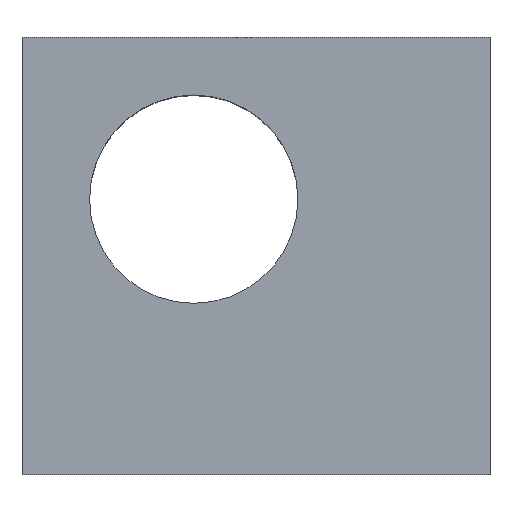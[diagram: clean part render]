
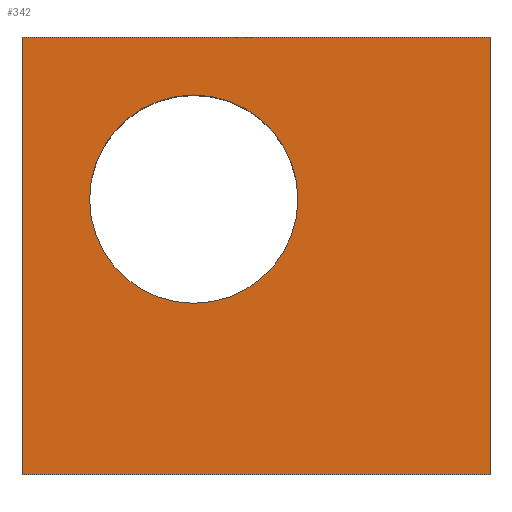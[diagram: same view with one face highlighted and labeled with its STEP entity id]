
A CAD part, top view. The second image highlights one B-rep face of the part: STEP entity #342.
In plain terms, the highlighted planar face has unit normal (0, 0, 1).
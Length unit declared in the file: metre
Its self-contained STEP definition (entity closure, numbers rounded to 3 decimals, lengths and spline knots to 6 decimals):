
#24 = VERTEX_POINT('',#25);
#25 = CARTESIAN_POINT('',(-75.584354,0.,50.));
#32 = PLANE('',#33);
#33 = AXIS2_PLACEMENT_3D('',#34,#35,#36);
#34 = CARTESIAN_POINT('',(-75.584354,0.,0.));
#35 = DIRECTION('',(0.,1.,0.));
#36 = DIRECTION('',(1.,0.,0.));
#44 = PLANE('',#45);
#45 = AXIS2_PLACEMENT_3D('',#46,#47,#48);
#46 = CARTESIAN_POINT('',(-75.584354,70.586521,0.));
#47 = DIRECTION('',(1.,0.,-0.));
#48 = DIRECTION('',(0.,-1.,0.));
#56 = EDGE_CURVE('',#24,#57,#59,.T.);
#57 = VERTEX_POINT('',#58);
#58 = CARTESIAN_POINT('',(0.,0.,50.));
#59 = SURFACE_CURVE('',#60,(#64,#71),.PCURVE_S1.);
#60 = LINE('',#61,#62);
#61 = CARTESIAN_POINT('',(-75.584354,0.,50.));
#62 = VECTOR('',#63,1.);
#63 = DIRECTION('',(1.,0.,0.));
#64 = PCURVE('',#32,#65);
#65 = DEFINITIONAL_REPRESENTATION('',(#66),#70);
#66 = LINE('',#67,#68);
#67 = CARTESIAN_POINT('',(0.,-50.));
#68 = VECTOR('',#69,1.);
#69 = DIRECTION('',(1.,0.));
#70 = ( GEOMETRIC_REPRESENTATION_CONTEXT(2) 
PARAMETRIC_REPRESENTATION_CONTEXT() REPRESENTATION_CONTEXT('2D SPACE',''
  ) );
#71 = PCURVE('',#72,#77);
#72 = PLANE('',#73);
#73 = AXIS2_PLACEMENT_3D('',#74,#75,#76);
#74 = CARTESIAN_POINT('',(0.,0.,50.));
#75 = DIRECTION('',(0.,0.,1.));
#76 = DIRECTION('',(1.,0.,-0.));
#77 = DEFINITIONAL_REPRESENTATION('',(#78),#82);
#78 = LINE('',#79,#80);
#79 = CARTESIAN_POINT('',(-75.584,0.));
#80 = VECTOR('',#81,1.);
#81 = DIRECTION('',(1.,0.));
#82 = ( GEOMETRIC_REPRESENTATION_CONTEXT(2) 
PARAMETRIC_REPRESENTATION_CONTEXT() REPRESENTATION_CONTEXT('2D SPACE',''
  ) );
#100 = PLANE('',#101);
#101 = AXIS2_PLACEMENT_3D('',#102,#103,#104);
#102 = CARTESIAN_POINT('',(0.,0.,0.));
#103 = DIRECTION('',(-1.,0.,0.));
#104 = DIRECTION('',(0.,1.,0.));
#144 = VERTEX_POINT('',#145);
#145 = CARTESIAN_POINT('',(-75.584354,70.586521,50.));
#159 = PLANE('',#160);
#160 = AXIS2_PLACEMENT_3D('',#161,#162,#163);
#161 = CARTESIAN_POINT('',(0.,70.586521,0.));
#162 = DIRECTION('',(0.,-1.,0.));
#163 = DIRECTION('',(-1.,0.,0.));
#171 = EDGE_CURVE('',#144,#24,#172,.T.);
#172 = SURFACE_CURVE('',#173,(#177,#184),.PCURVE_S1.);
#173 = LINE('',#174,#175);
#174 = CARTESIAN_POINT('',(-75.584354,70.586521,50.));
#175 = VECTOR('',#176,1.);
#176 = DIRECTION('',(0.,-1.,0.));
#177 = PCURVE('',#44,#178);
#178 = DEFINITIONAL_REPRESENTATION('',(#179),#183);
#179 = LINE('',#180,#181);
#180 = CARTESIAN_POINT('',(0.,-50.));
#181 = VECTOR('',#182,1.);
#182 = DIRECTION('',(1.,0.));
#183 = ( GEOMETRIC_REPRESENTATION_CONTEXT(2) 
PARAMETRIC_REPRESENTATION_CONTEXT() REPRESENTATION_CONTEXT('2D SPACE',''
  ) );
#184 = PCURVE('',#72,#185);
#185 = DEFINITIONAL_REPRESENTATION('',(#186),#190);
#186 = LINE('',#187,#188);
#187 = CARTESIAN_POINT('',(-75.584,70.587));
#188 = VECTOR('',#189,1.);
#189 = DIRECTION('',(0.,-1.));
#190 = ( GEOMETRIC_REPRESENTATION_CONTEXT(2) 
PARAMETRIC_REPRESENTATION_CONTEXT() REPRESENTATION_CONTEXT('2D SPACE',''
  ) );
#218 = EDGE_CURVE('',#57,#219,#221,.T.);
#219 = VERTEX_POINT('',#220);
#220 = CARTESIAN_POINT('',(0.,70.586521,50.));
#221 = SURFACE_CURVE('',#222,(#226,#233),.PCURVE_S1.);
#222 = LINE('',#223,#224);
#223 = CARTESIAN_POINT('',(0.,0.,50.));
#224 = VECTOR('',#225,1.);
#225 = DIRECTION('',(0.,1.,0.));
#226 = PCURVE('',#100,#227);
#227 = DEFINITIONAL_REPRESENTATION('',(#228),#232);
#228 = LINE('',#229,#230);
#229 = CARTESIAN_POINT('',(0.,-50.));
#230 = VECTOR('',#231,1.);
#231 = DIRECTION('',(1.,0.));
#232 = ( GEOMETRIC_REPRESENTATION_CONTEXT(2) 
PARAMETRIC_REPRESENTATION_CONTEXT() REPRESENTATION_CONTEXT('2D SPACE',''
  ) );
#233 = PCURVE('',#72,#234);
#234 = DEFINITIONAL_REPRESENTATION('',(#235),#239);
#235 = LINE('',#236,#237);
#236 = CARTESIAN_POINT('',(0.,0.));
#237 = VECTOR('',#238,1.);
#238 = DIRECTION('',(0.,1.));
#239 = ( GEOMETRIC_REPRESENTATION_CONTEXT(2) 
PARAMETRIC_REPRESENTATION_CONTEXT() REPRESENTATION_CONTEXT('2D SPACE',''
  ) );
#331 = CYLINDRICAL_SURFACE('',#332,16.822425);
#332 = AXIS2_PLACEMENT_3D('',#333,#334,#335);
#333 = CARTESIAN_POINT('',(-47.850553,44.430312,0.));
#334 = DIRECTION('',(-0.,-0.,-1.));
#335 = DIRECTION('',(1.,0.,-0.));
#342 = ADVANCED_FACE('',(#343,#369),#72,.T.);
#343 = FACE_BOUND('',#344,.T.);
#344 = EDGE_LOOP('',(#345,#346,#347,#368));
#345 = ORIENTED_EDGE('',*,*,#56,.T.);
#346 = ORIENTED_EDGE('',*,*,#218,.T.);
#347 = ORIENTED_EDGE('',*,*,#348,.T.);
#348 = EDGE_CURVE('',#219,#144,#349,.T.);
#349 = SURFACE_CURVE('',#350,(#354,#361),.PCURVE_S1.);
#350 = LINE('',#351,#352);
#351 = CARTESIAN_POINT('',(0.,70.586521,50.));
#352 = VECTOR('',#353,1.);
#353 = DIRECTION('',(-1.,0.,0.));
#354 = PCURVE('',#72,#355);
#355 = DEFINITIONAL_REPRESENTATION('',(#356),#360);
#356 = LINE('',#357,#358);
#357 = CARTESIAN_POINT('',(0.,70.587));
#358 = VECTOR('',#359,1.);
#359 = DIRECTION('',(-1.,0.));
#360 = ( GEOMETRIC_REPRESENTATION_CONTEXT(2) 
PARAMETRIC_REPRESENTATION_CONTEXT() REPRESENTATION_CONTEXT('2D SPACE',''
  ) );
#361 = PCURVE('',#159,#362);
#362 = DEFINITIONAL_REPRESENTATION('',(#363),#367);
#363 = LINE('',#364,#365);
#364 = CARTESIAN_POINT('',(0.,-50.));
#365 = VECTOR('',#366,1.);
#366 = DIRECTION('',(1.,0.));
#367 = ( GEOMETRIC_REPRESENTATION_CONTEXT(2) 
PARAMETRIC_REPRESENTATION_CONTEXT() REPRESENTATION_CONTEXT('2D SPACE',''
  ) );
#368 = ORIENTED_EDGE('',*,*,#171,.T.);
#369 = FACE_BOUND('',#370,.T.);
#370 = EDGE_LOOP('',(#371));
#371 = ORIENTED_EDGE('',*,*,#372,.F.);
#372 = EDGE_CURVE('',#373,#373,#375,.T.);
#373 = VERTEX_POINT('',#374);
#374 = CARTESIAN_POINT('',(-31.028128,44.430312,50.));
#375 = SURFACE_CURVE('',#376,(#381,#388),.PCURVE_S1.);
#376 = CIRCLE('',#377,16.822425);
#377 = AXIS2_PLACEMENT_3D('',#378,#379,#380);
#378 = CARTESIAN_POINT('',(-47.850553,44.430312,50.));
#379 = DIRECTION('',(0.,0.,1.));
#380 = DIRECTION('',(1.,0.,-0.));
#381 = PCURVE('',#72,#382);
#382 = DEFINITIONAL_REPRESENTATION('',(#383),#387);
#383 = CIRCLE('',#384,16.822425);
#384 = AXIS2_PLACEMENT_2D('',#385,#386);
#385 = CARTESIAN_POINT('',(-47.851,44.43));
#386 = DIRECTION('',(1.,0.));
#387 = ( GEOMETRIC_REPRESENTATION_CONTEXT(2) 
PARAMETRIC_REPRESENTATION_CONTEXT() REPRESENTATION_CONTEXT('2D SPACE',''
  ) );
#388 = PCURVE('',#331,#389);
#389 = DEFINITIONAL_REPRESENTATION('',(#390),#394);
#390 = LINE('',#391,#392);
#391 = CARTESIAN_POINT('',(-0.,-50.));
#392 = VECTOR('',#393,1.);
#393 = DIRECTION('',(-1.,0.));
#394 = ( GEOMETRIC_REPRESENTATION_CONTEXT(2) 
PARAMETRIC_REPRESENTATION_CONTEXT() REPRESENTATION_CONTEXT('2D SPACE',''
  ) );
